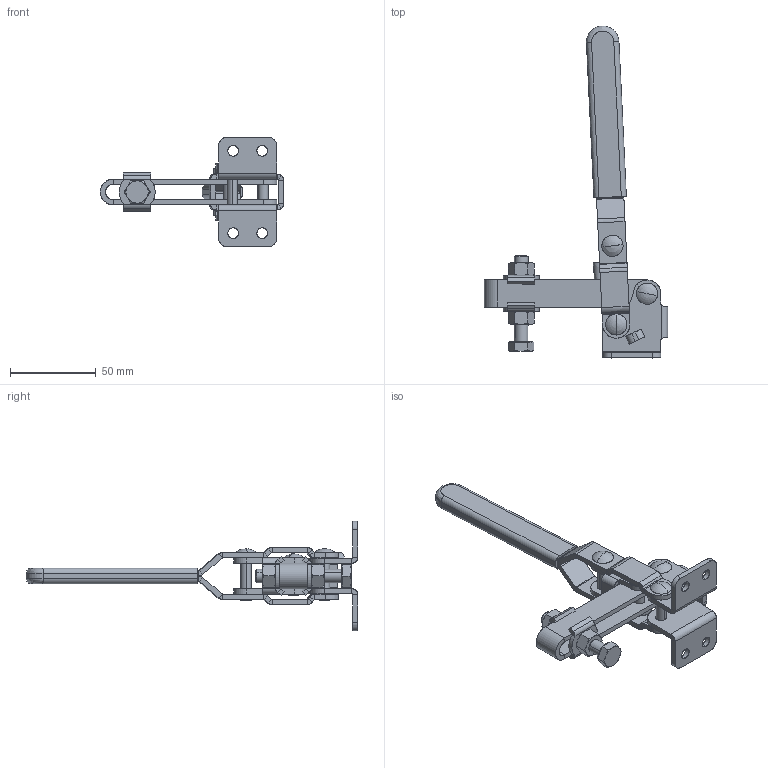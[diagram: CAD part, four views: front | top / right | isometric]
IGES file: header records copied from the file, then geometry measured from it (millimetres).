
Start section: SolidWorks IGES file using analytic representation for surfaces
Global section: file name: \\BARTOP_SV6\share\SOLIDWORKS\工具事業部\坂入用\受け渡し\ISK-41B小0.IGS; native system: SolidWorks 2015; preprocessor: SolidWorks 2015; author: SOLID02; date: 150629.184908; units: millimetre
Bounding box: 107.02 x 193.81 x 64 mm (x, y, z)
Surface area: 52356.6 mm2 (no closed solid volume)
Topology: 0 solids, 0 shells, 473 faces, 5710 edges, 5698 vertices
Faces by surface type: bspline 255, revolution 218
